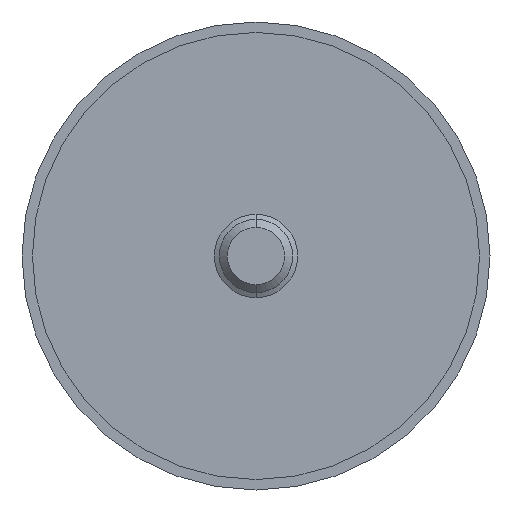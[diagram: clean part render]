
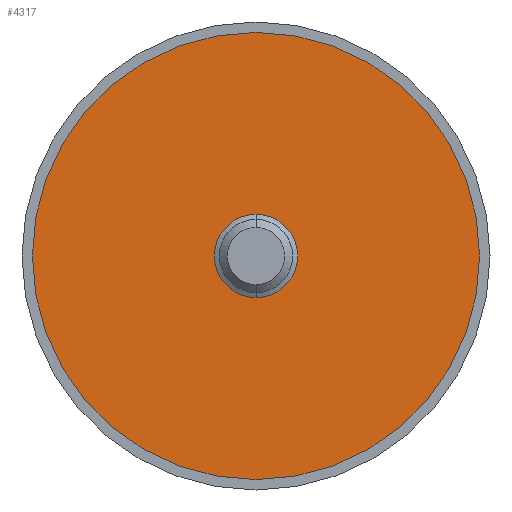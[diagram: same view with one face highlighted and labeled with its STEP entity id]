
A CAD part, front view. The second image highlights one B-rep face of the part: STEP entity #4317.
In plain terms, the highlighted planar face has unit normal (0, -1, 0).
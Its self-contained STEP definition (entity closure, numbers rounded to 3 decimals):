
#4 = AXIS2_PLACEMENT_3D ( 'NONE', #743, #2144, #3223 ) ;
#144 = AXIS2_PLACEMENT_3D ( 'NONE', #3735, #3485, #660 ) ;
#156 = VERTEX_POINT ( 'NONE', #1124 ) ;
#249 = EDGE_CURVE ( 'NONE', #2849, #1346, #834, .T. ) ;
#361 = DIRECTION ( 'NONE',  ( 0., 1., 0. ) ) ;
#660 = DIRECTION ( 'NONE',  ( 0., 0., -1. ) ) ;
#701 = AXIS2_PLACEMENT_3D ( 'NONE', #733, #361, #2120 ) ;
#733 = CARTESIAN_POINT ( 'NONE',  ( 0., -1.5, 0. ) ) ;
#743 = CARTESIAN_POINT ( 'NONE',  ( 0., -1.5, 0. ) ) ;
#834 = CIRCLE ( 'NONE', #4199, 21.5 ) ;
#870 = EDGE_LOOP ( 'NONE', ( #3559, #3988 ) ) ;
#1124 = CARTESIAN_POINT ( 'NONE',  ( 0., -1.5, -4. ) ) ;
#1346 = VERTEX_POINT ( 'NONE', #2762 ) ;
#1607 = DIRECTION ( 'NONE',  ( 0., 1., 0. ) ) ;
#2043 = FACE_BOUND ( 'NONE', #4434, .T. ) ;
#2120 = DIRECTION ( 'NONE',  ( 0., 0., 1. ) ) ;
#2144 = DIRECTION ( 'NONE',  ( 0., -1., 0. ) ) ;
#2349 = VERTEX_POINT ( 'NONE', #3022 ) ;
#2451 = CARTESIAN_POINT ( 'NONE',  ( 0., -1.5, 21.5 ) ) ;
#2686 = ORIENTED_EDGE ( 'NONE', *, *, #2816, .F. ) ;
#2762 = CARTESIAN_POINT ( 'NONE',  ( 0., -1.5, -21.5 ) ) ;
#2816 = EDGE_CURVE ( 'NONE', #156, #2349, #4510, .T. ) ;
#2849 = VERTEX_POINT ( 'NONE', #2451 ) ;
#2852 = PLANE ( 'NONE',  #701 ) ;
#2917 = DIRECTION ( 'NONE',  ( 0., 0., 1. ) ) ;
#3022 = CARTESIAN_POINT ( 'NONE',  ( 0., -1.5, 4. ) ) ;
#3223 = DIRECTION ( 'NONE',  ( 0., 0., -1. ) ) ;
#3432 = CIRCLE ( 'NONE', #4, 4. ) ;
#3485 = DIRECTION ( 'NONE',  ( 0., -1., 0. ) ) ;
#3559 = ORIENTED_EDGE ( 'NONE', *, *, #249, .F. ) ;
#3563 = DIRECTION ( 'NONE',  ( 0., 1., 0. ) ) ;
#3598 = CARTESIAN_POINT ( 'NONE',  ( 0., -1.5, 0. ) ) ;
#3649 = AXIS2_PLACEMENT_3D ( 'NONE', #3598, #3563, #2917 ) ;
#3715 = CARTESIAN_POINT ( 'NONE',  ( 0., -1.5, 0. ) ) ;
#3735 = CARTESIAN_POINT ( 'NONE',  ( 0., -1.5, 0. ) ) ;
#3906 = EDGE_CURVE ( 'NONE', #2349, #156, #3432, .T. ) ;
#3928 = ORIENTED_EDGE ( 'NONE', *, *, #3906, .F. ) ;
#3988 = ORIENTED_EDGE ( 'NONE', *, *, #4389, .F. ) ;
#4058 = DIRECTION ( 'NONE',  ( 0., 0., 1. ) ) ;
#4199 = AXIS2_PLACEMENT_3D ( 'NONE', #3715, #1607, #4058 ) ;
#4317 = ADVANCED_FACE ( 'NONE', ( #2043, #4335 ), #2852, .F. ) ;
#4335 = FACE_OUTER_BOUND ( 'NONE', #870, .T. ) ;
#4389 = EDGE_CURVE ( 'NONE', #1346, #2849, #4502, .T. ) ;
#4434 = EDGE_LOOP ( 'NONE', ( #3928, #2686 ) ) ;
#4502 = CIRCLE ( 'NONE', #3649, 21.5 ) ;
#4510 = CIRCLE ( 'NONE', #144, 4. ) ;
